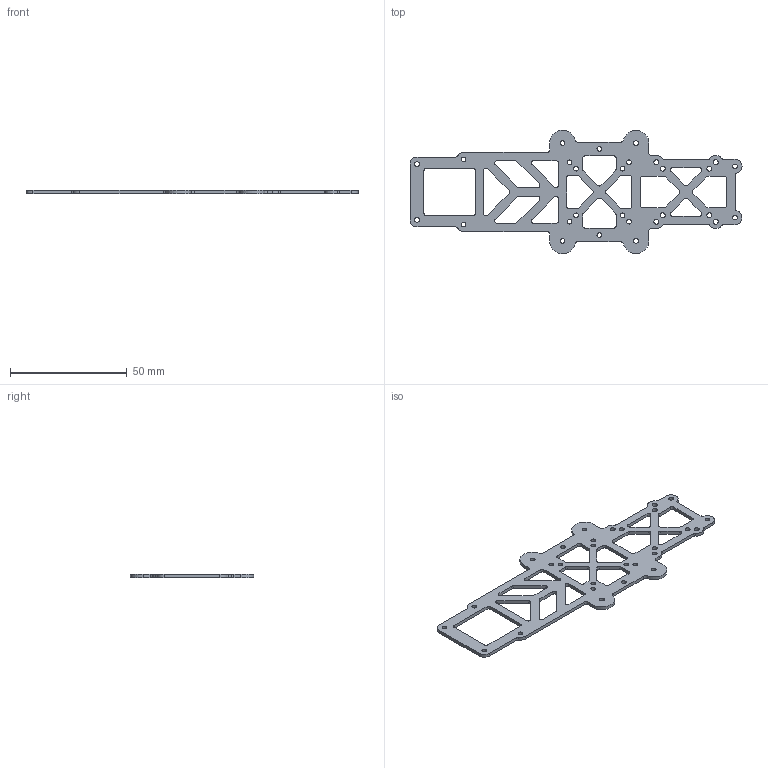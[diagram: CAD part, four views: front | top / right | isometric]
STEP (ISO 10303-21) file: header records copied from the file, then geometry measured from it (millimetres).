
FILE_DESCRIPTION(/* description */ (''),/* implementation_level */ '2;1');
FILE_NAME(/* name */ 'GoFlyPro - 4Z - Baseplate-V1.step',/* time_stamp */ '2024-05-21T11:21:05+02:00',/* author */ (''),/* organization */ (''),/* preprocessor_version */ 'ST-DEVELOPER v20',/* originating_system */ 'Autodesk Translation Framework v12.20.1.177',/* authorisation */ '');
FILE_SCHEMA (('AUTOMOTIVE_DESIGN { 1 0 10303 214 3 1 1 }'));
Length unit declared in the file: millimetre
Products named in the file (1): GoFlyPro - 4Z - Baseplate-V1
Bounding box: 142.5 x 52.99 x 1.5 mm (x, y, z)
Volume: 4453.1 mm3; surface area: 7765.9 mm2
Topology: 1 solids, 1 shells, 194 faces, 576 edges, 384 vertices
Faces by surface type: cylinder 117, plane 77
Full cylindrical faces by diameter (mm): 2 x20, 2.1 x8
Entity records: 6795 total; most frequent: DIRECTION 1200, CARTESIAN_POINT 1155, ORIENTED_EDGE 1152, EDGE_CURVE 576, AXIS2_PLACEMENT_3D 429, VERTEX_POINT 384, LINE 342, VECTOR 342
